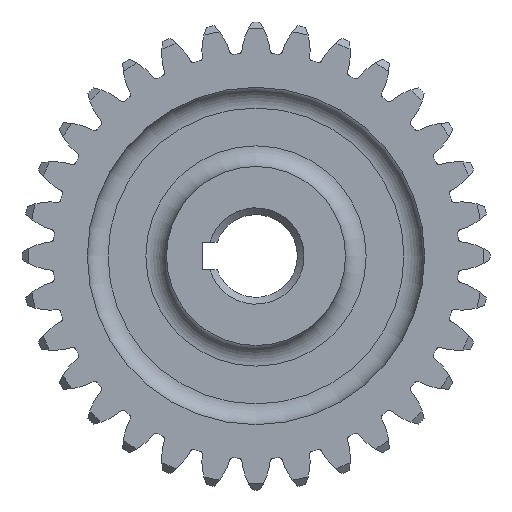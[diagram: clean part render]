
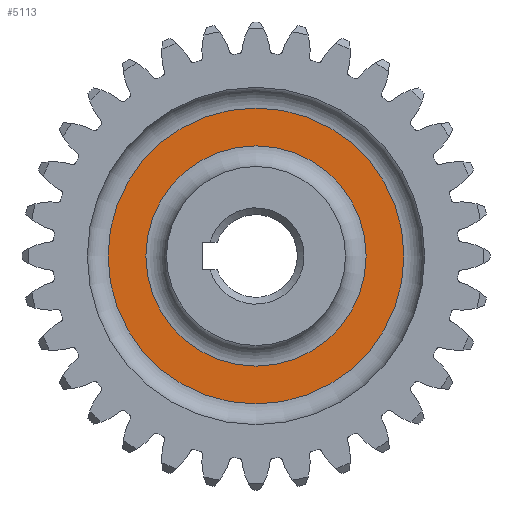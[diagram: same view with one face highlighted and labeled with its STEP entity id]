
A CAD part, left-side view. The second image highlights one B-rep face of the part: STEP entity #5113.
In plain terms, the highlighted planar face has unit normal (-1, 0, 0).
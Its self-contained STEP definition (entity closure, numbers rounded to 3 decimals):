
#27=FACE_BOUND('',#1200,.T.);
#36=PLANE('',#5879);
#919=FACE_OUTER_BOUND('',#1199,.T.);
#1199=EDGE_LOOP('',(#4570));
#1200=EDGE_LOOP('',(#4571));
#1671=CIRCLE('',#5878,16.);
#1672=CIRCLE('',#5880,21.5);
#2340=VERTEX_POINT('',#9594);
#2341=VERTEX_POINT('',#9598);
#3148=EDGE_CURVE('',#2340,#2340,#1671,.T.);
#3149=EDGE_CURVE('',#2341,#2341,#1672,.T.);
#4570=ORIENTED_EDGE('',*,*,#3149,.F.);
#4571=ORIENTED_EDGE('',*,*,#3148,.T.);
#5113=ADVANCED_FACE('',(#919,#27),#36,.T.);
#5878=AXIS2_PLACEMENT_3D('',#9596,#7571,#7572);
#5879=AXIS2_PLACEMENT_3D('',#9597,#7573,#7574);
#5880=AXIS2_PLACEMENT_3D('',#9599,#7575,#7576);
#7571=DIRECTION('center_axis',(1.,0.,0.));
#7572=DIRECTION('ref_axis',(0.,0.,-1.));
#7573=DIRECTION('center_axis',(-1.,0.,0.));
#7574=DIRECTION('ref_axis',(0.,0.,1.));
#7575=DIRECTION('center_axis',(1.,0.,0.));
#7576=DIRECTION('ref_axis',(0.,0.,-1.));
#9594=CARTESIAN_POINT('',(-4.,0.,16.));
#9596=CARTESIAN_POINT('Origin',(-4.,0.,
0.));
#9597=CARTESIAN_POINT('Origin',(-4.,21.5,0.));
#9598=CARTESIAN_POINT('',(-4.,0.,21.5));
#9599=CARTESIAN_POINT('Origin',(-4.,0.,0.));
